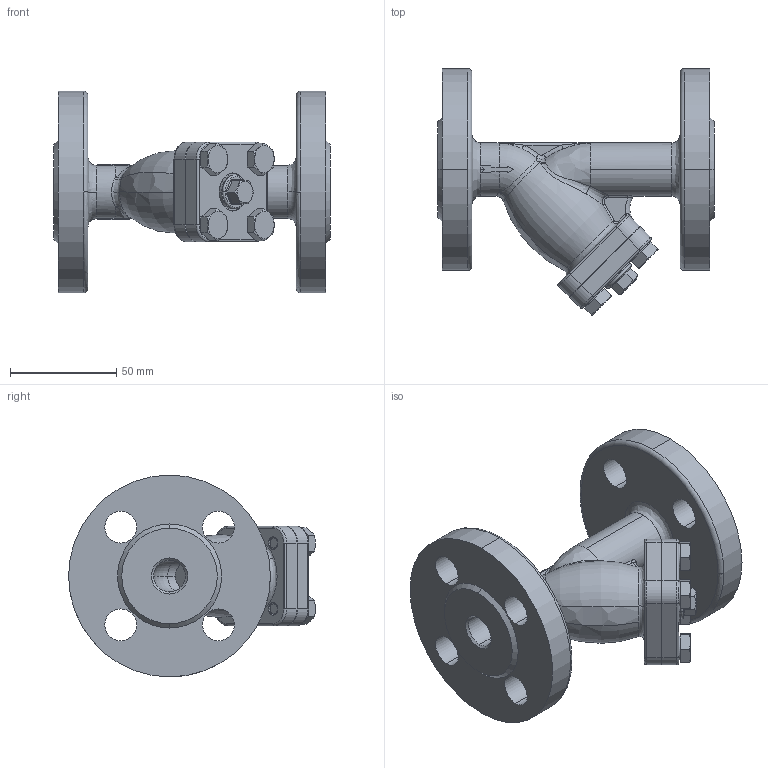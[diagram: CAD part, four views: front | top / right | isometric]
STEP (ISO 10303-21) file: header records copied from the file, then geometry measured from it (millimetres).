
FILE_DESCRIPTION (( 'STEP AP203' ), '1' );
FILE_NAME ('F3240-DN15.STEP', '2017-04-23T06:35:44', ( 'User' ), ( 'shendu' ), 'SwSTEP 2.0', 'SolidWorks 2015', '' );
FILE_SCHEMA (( 'CONFIG_CONTROL_DESIGN' ));
Length unit declared in the file: millimetre
Products named in the file (1): F3240-DN15
Bounding box: 130 x 116.15 x 95 mm (x, y, z)
Volume: 276223.3 mm3; surface area: 78889.7 mm2
Topology: 10 solids, 10 shells, 447 faces, 1093 edges, 672 vertices
Faces by surface type: cylinder 126, plane 113, bspline 104, cone 75, torus 29
Entity records: 22764 total; most frequent: CARTESIAN_POINT 12987, ORIENTED_EDGE 2160, DIRECTION 1802, EDGE_CURVE 1080, AXIS2_PLACEMENT_3D 740, VERTEX_POINT 672, EDGE_LOOP 508, FACE_OUTER_BOUND 447
